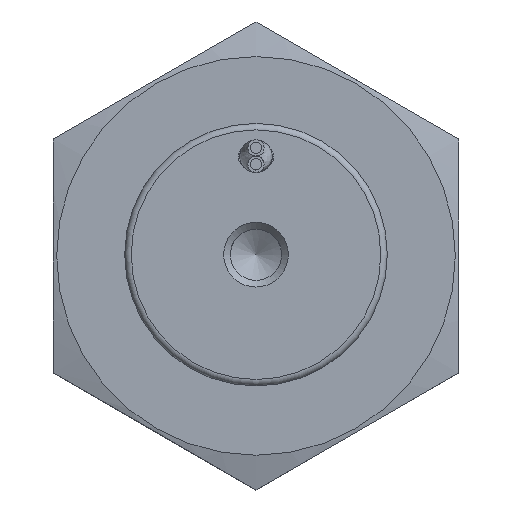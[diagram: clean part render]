
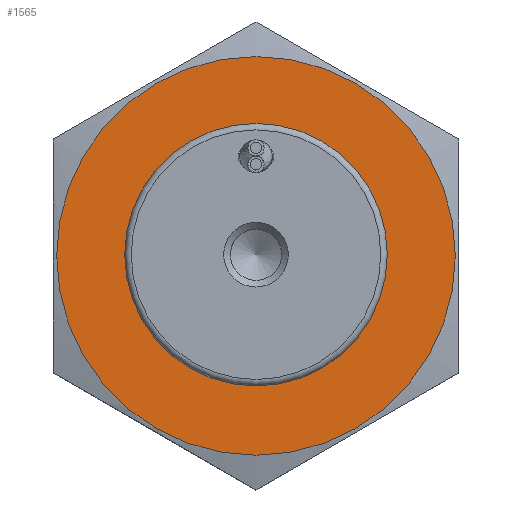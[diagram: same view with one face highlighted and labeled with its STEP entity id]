
A CAD part, top view. The second image highlights one B-rep face of the part: STEP entity #1565.
In plain terms, the highlighted planar face has unit normal (0, 0, 1).
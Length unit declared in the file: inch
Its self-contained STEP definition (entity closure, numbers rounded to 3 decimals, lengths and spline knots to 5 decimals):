
#267 = ORIENTED_EDGE ( 'NONE', *, *, #1712, .T. ) ;
#1205 = EDGE_CURVE ( 'NONE', #2067, #2067, #3789, .T. ) ;
#1368 = CARTESIAN_POINT ( 'NONE',  ( -0.405, 0., 1.05745 ) ) ;
#1411 = DIRECTION ( 'NONE',  ( 1., 0., 0. ) ) ;
#1423 = ORIENTED_EDGE ( 'NONE', *, *, #1205, .F. ) ;
#1565 = ADVANCED_FACE ( 'NONE', ( #3495, #3514 ), #4155, .F. ) ;
#1665 = CIRCLE ( 'NONE', #2237, 0.615 ) ;
#1712 = EDGE_CURVE ( 'NONE', #2126, #2126, #1665, .T. ) ;
#1786 = DIRECTION ( 'NONE',  ( 0., 0., 1. ) ) ;
#2067 = VERTEX_POINT ( 'NONE', #1368 ) ;
#2109 = CARTESIAN_POINT ( 'NONE',  ( 0., 0., 1.05745 ) ) ;
#2126 = VERTEX_POINT ( 'NONE', #3176 ) ;
#2237 = AXIS2_PLACEMENT_3D ( 'NONE', #3185, #3106, #1411 ) ;
#2261 = EDGE_LOOP ( 'NONE', ( #267 ) ) ;
#2462 = CARTESIAN_POINT ( 'NONE',  ( 0., 0.37129, 1.05745 ) ) ;
#2481 = DIRECTION ( 'NONE',  ( 0., 0., -1. ) ) ;
#2780 = DIRECTION ( 'NONE',  ( -1., 0., 0. ) ) ;
#3106 = DIRECTION ( 'NONE',  ( 0., 0., 1. ) ) ;
#3176 = CARTESIAN_POINT ( 'NONE',  ( 0.615, -0.00371, 1.05745 ) ) ;
#3185 = CARTESIAN_POINT ( 'NONE',  ( 0., -0.00371, 1.05745 ) ) ;
#3468 = AXIS2_PLACEMENT_3D ( 'NONE', #2462, #2481, #4113 ) ;
#3495 = FACE_BOUND ( 'NONE', #3982, .T. ) ;
#3514 = FACE_OUTER_BOUND ( 'NONE', #2261, .T. ) ;
#3789 = CIRCLE ( 'NONE', #4354, 0.405 ) ;
#3982 = EDGE_LOOP ( 'NONE', ( #1423 ) ) ;
#4113 = DIRECTION ( 'NONE',  ( -1., 0., 0. ) ) ;
#4155 = PLANE ( 'NONE',  #3468 ) ;
#4354 = AXIS2_PLACEMENT_3D ( 'NONE', #2109, #1786, #2780 ) ;
